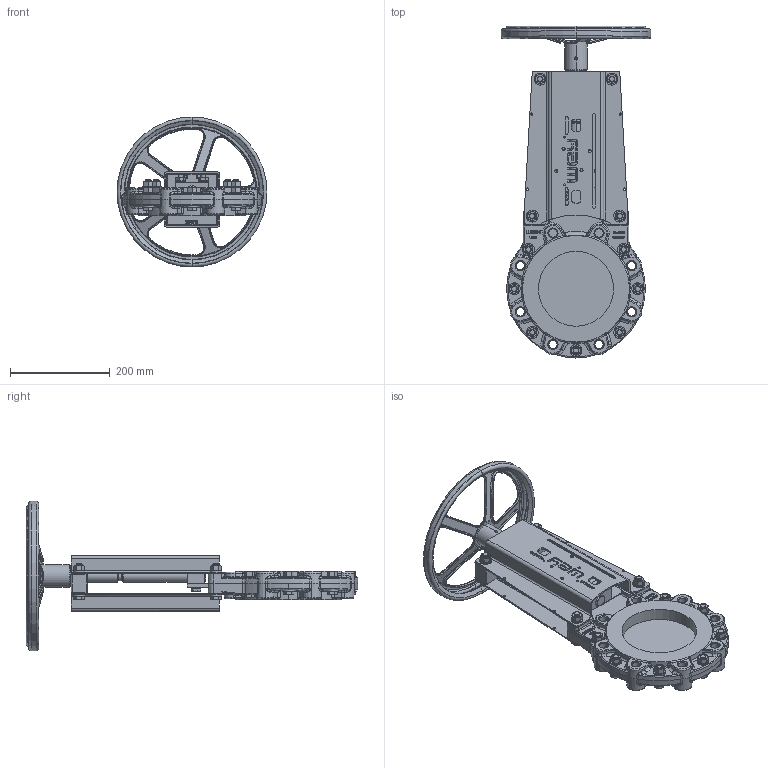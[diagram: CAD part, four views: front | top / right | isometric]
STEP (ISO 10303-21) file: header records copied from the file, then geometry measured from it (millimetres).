
FILE_DESCRIPTION (( 'STEP AP203' ), '1' );
FILE_NAME ('VMA DN 150 DH300.step', '2013-09-30T09:14:19', ( 'admin' ), ( '' ), 'SwSTEP 2.0', 'SolidWorks 2013', '' );
FILE_SCHEMA (( 'CONFIG_CONTROL_DESIGN' ));
Length unit declared in the file: millimetre
Products named in the file (1): VMA DN 150 DH300
Bounding box: 300 x 664 x 300 mm (x, y, z)
Volume: 3619134.6 mm3; surface area: 839940 mm2
Topology: 53 solids, 54 shells, 3020 faces, 7392 edges, 4493 vertices
Faces by surface type: plane 1071, cylinder 704, bspline 625, cone 437, torus 183
Entity records: 119327 total; most frequent: CARTESIAN_POINT 52680, ORIENTED_EDGE 14604, DIRECTION 12602, EDGE_CURVE 7302, AXIS2_PLACEMENT_3D 4755, VERTEX_POINT 4493, EDGE_LOOP 3339, VECTOR 3092
